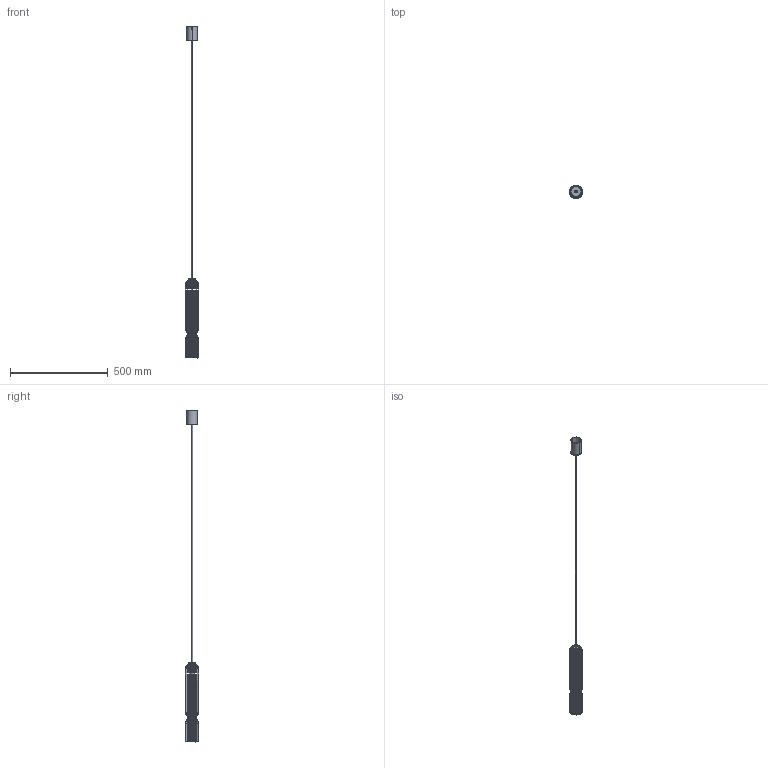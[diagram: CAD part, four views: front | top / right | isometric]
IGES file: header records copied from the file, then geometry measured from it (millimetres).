
Start section: SolidWorks IGES file using analytic representation for surfaces
Global section: file name: C:\Users\anna.bielnik\Desktop\singles b bbb.IGS; native system: SolidWorks 2024; preprocessor: SolidWorks 2024; author: anna.bielnik; date: 251205.105931; units: millimetre
Bounding box: 68 x 67.63 x 1700 mm (x, y, z)
Surface area: 207112.8 mm2 (no closed solid volume)
Topology: 0 solids, 0 shells, 850 faces, 12580 edges, 12580 vertices
Faces by surface type: revolution 444, bspline 406
